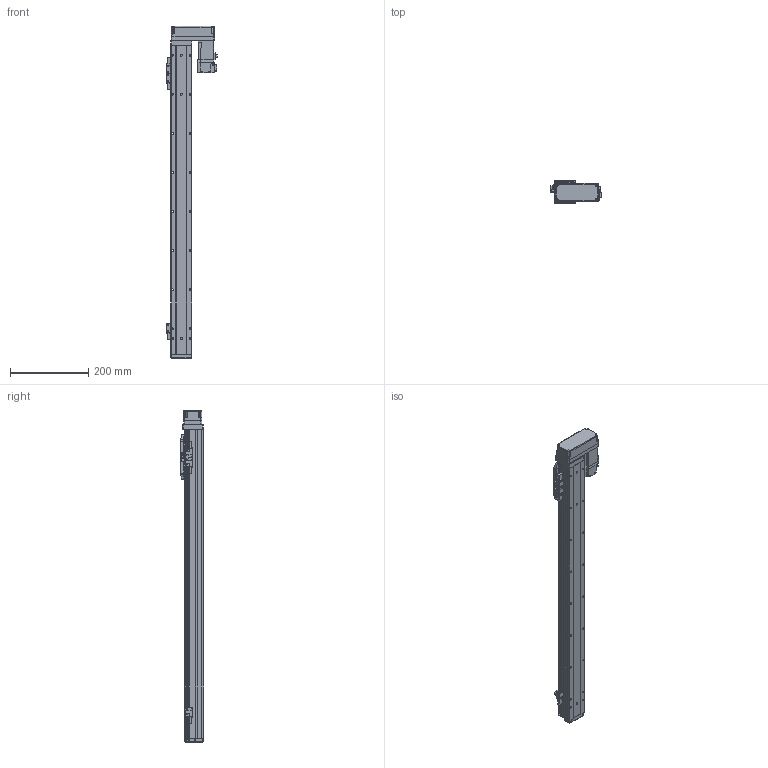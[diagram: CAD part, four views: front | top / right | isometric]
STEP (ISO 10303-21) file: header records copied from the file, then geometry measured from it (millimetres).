
FILE_DESCRIPTION (( 'STEP AP214' ), '1' );
FILE_NAME ('N_GRH5-650-BL-M10.step', '2025-03-14T09:45:47', ( '' ), ( '' ), 'SwSTEP 2.0', 'SolidWorks 2016', '' );
FILE_SCHEMA (( 'AUTOMOTIVE_DESIGN' ));
Length unit declared in the file: millimetre
Products named in the file (5): N_GRH5-650-BL-M10; N_GRH5-GY-011^N_GRH5-650-BL-M10; N_GRH5-BL-008^N_GRH5-650-BL-M10; N_GRH5-GY-004^N_GRH5-650-BL-M10; HF-KP13_100W_Motor^N_GRH5-650-BL-M10
Assembly tree (4 placements, depth 2):
  N_GRH5-650-BL-M10
    N_GRH5-GY-011^N_GRH5-650-BL-M10
    N_GRH5-GY-004^N_GRH5-650-BL-M10
    HF-KP13_100W_Motor^N_GRH5-650-BL-M10
    N_GRH5-BL-008^N_GRH5-650-BL-M10
Bounding box: 128.85 x 60 x 850 mm (x, y, z)
Volume: 1580660.1 mm3; surface area: 403143.9 mm2
Topology: 4 solids, 5 shells, 944 faces, 2424 edges, 1545 vertices
Faces by surface type: plane 559, cylinder 330, cone 30, bspline 15, sphere 10
Entity records: 35973 total; most frequent: CARTESIAN_POINT 5751, DIRECTION 4893, ORIENTED_EDGE 4800, EDGE_CURVE 2400, VECTOR 1647, LINE 1647, AXIS2_PLACEMENT_3D 1623, VERTEX_POINT 1543
